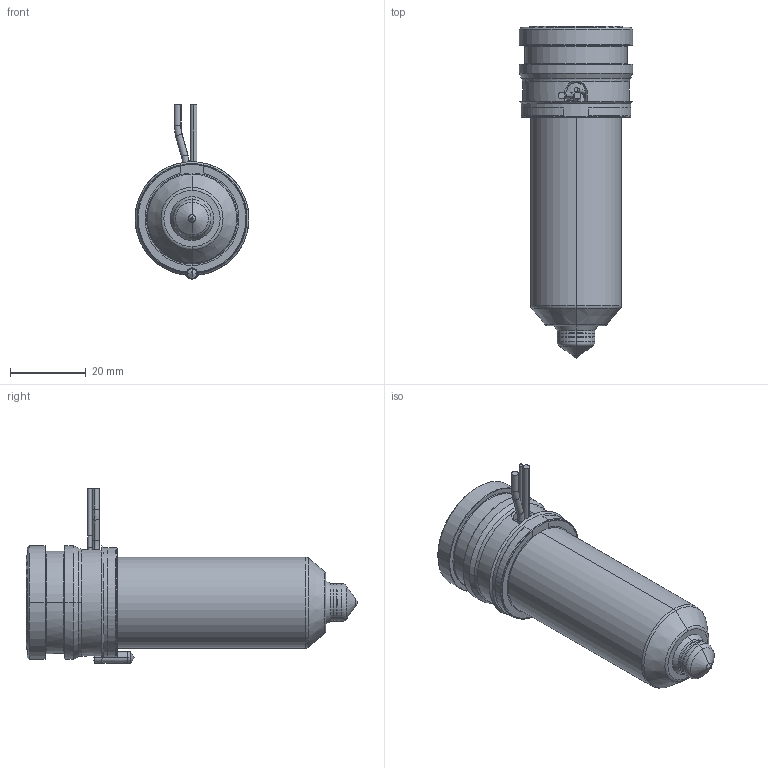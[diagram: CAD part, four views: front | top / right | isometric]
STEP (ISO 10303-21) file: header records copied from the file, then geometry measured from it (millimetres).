
FILE_DESCRIPTION((''),'2;1');
FILE_NAME('MPN-10-29-TX10-066-A','2026-02-11T11:16:49',('UVRWS'),('Thermoplay S.p.A.'),'CREO PARAMETRIC BY PTC INC, 2023494','CREO PARAMETRIC BY PTC INC, 2023494','');
FILE_SCHEMA(('CONFIG_CONTROL_DESIGN','SHAPE_APPEARANCE_LAYERS_GROUPS'));
Length unit declared in the file: millimetre
Products named in the file (1): MPN-10-29-TX10-066-A
Bounding box: 30 x 87.5 x 46 mm (x, y, z)
Volume: 28062 mm3; surface area: 27535.9 mm2
Topology: 2 solids, 3 shells, 551 faces, 1455 edges, 899 vertices
Faces by surface type: cylinder 180, plane 143, bspline 79, torus 68, cone 66, sphere 11, extrusion 4
Entity records: 30266 total; most frequent: CARTESIAN_POINT 13910, ORIENTED_EDGE 2894, DIRECTION 2641, EDGE_CURVE 1447, AXIS2_PLACEMENT_3D 1045, VERTEX_POINT 899, EDGE_LOOP 580, CIRCLE 576
